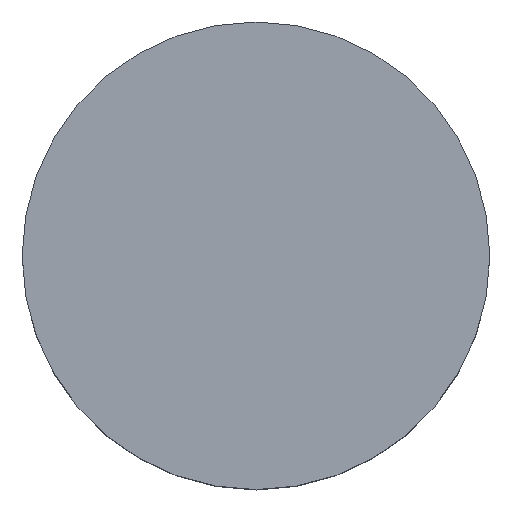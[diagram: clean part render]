
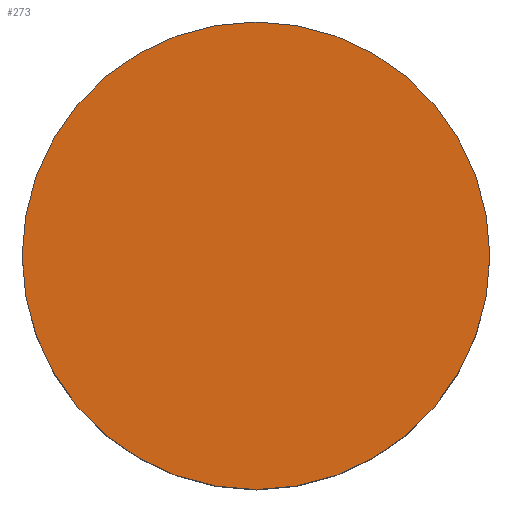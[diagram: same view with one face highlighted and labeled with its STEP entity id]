
A CAD part, top view. The second image highlights one B-rep face of the part: STEP entity #273.
In plain terms, the highlighted planar face has unit normal (0, 0, 1).
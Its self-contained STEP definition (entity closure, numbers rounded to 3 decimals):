
#43=PLANE('',#326);
#65=FACE_OUTER_BOUND('',#96,.T.);
#96=EDGE_LOOP('',(#227));
#137=CIRCLE('',#325,30.);
#161=VERTEX_POINT('',#496);
#187=EDGE_CURVE('',#161,#161,#137,.T.);
#227=ORIENTED_EDGE('',*,*,#187,.T.);
#273=ADVANCED_FACE('',(#65),#43,.T.);
#325=AXIS2_PLACEMENT_3D('',#497,#418,#419);
#326=AXIS2_PLACEMENT_3D('',#498,#420,#421);
#418=DIRECTION('center_axis',(0.,0.,1.));
#419=DIRECTION('ref_axis',(-1.,0.,0.));
#420=DIRECTION('center_axis',(0.,0.,1.));
#421=DIRECTION('ref_axis',(1.,0.,0.));
#496=CARTESIAN_POINT('',(30.,0.,32.));
#497=CARTESIAN_POINT('Origin',(0.,0.,32.));
#498=CARTESIAN_POINT('Origin',(0.,0.,
32.));
